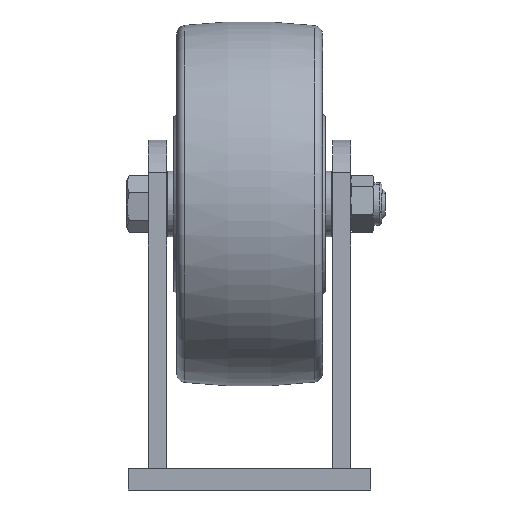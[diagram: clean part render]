
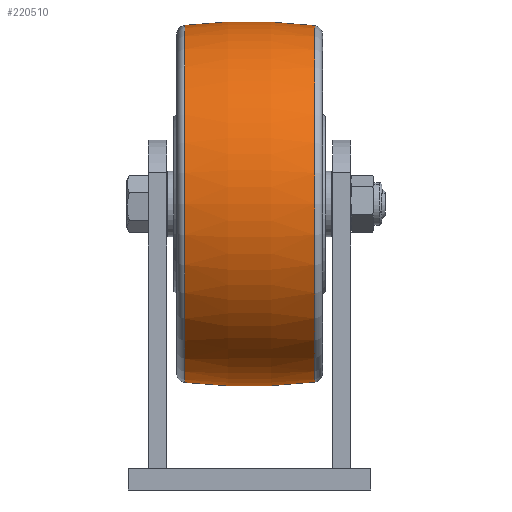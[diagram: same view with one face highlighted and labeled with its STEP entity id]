
A CAD part, left-side view. The second image highlights one B-rep face of the part: STEP entity #220510.
In plain terms, the highlighted toroidal (fillet/blend) face has major radius 200 mm and minor radius 300 mm.
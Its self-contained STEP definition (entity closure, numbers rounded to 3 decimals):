
#9700 = DIRECTION ( 'NONE',  ( 0., 1., 0. ) ) ;
#12964 = CIRCLE ( 'NONE', #210100, 97.789 ) ;
#16340 = EDGE_CURVE ( 'NONE', #149991, #26071, #56650, .T. ) ;
#16364 = CARTESIAN_POINT ( 'NONE',  ( 0., 0., -35.606 ) ) ;
#26071 = VERTEX_POINT ( 'NONE', #232201 ) ;
#30096 = VERTEX_POINT ( 'NONE', #141431 ) ;
#34602 = DIRECTION ( 'NONE',  ( 1., 0., 0. ) ) ;
#39773 = ORIENTED_EDGE ( 'NONE', *, *, #238417, .T. ) ;
#40379 = CARTESIAN_POINT ( 'NONE',  ( 0., 0., 35.581 ) ) ;
#55108 = DIRECTION ( 'NONE',  ( 0., 0., 1. ) ) ;
#56650 = CIRCLE ( 'NONE', #80827, 97.971 ) ;
#61658 = DIRECTION ( 'NONE',  ( 0., 0., 1. ) ) ;
#64802 = CIRCLE ( 'NONE', #199135, 300. ) ;
#66489 = TOROIDAL_SURFACE ( 'NONE', #195385, -200., 300. ) ;
#67630 = CARTESIAN_POINT ( 'NONE',  ( 0., 97.971, 35.581 ) ) ;
#76194 = AXIS2_PLACEMENT_3D ( 'NONE', #172804, #214965, #61658 ) ;
#80827 = AXIS2_PLACEMENT_3D ( 'NONE', #40379, #193698, #215744 ) ;
#112362 = ORIENTED_EDGE ( 'NONE', *, *, #272020, .T. ) ;
#141431 = CARTESIAN_POINT ( 'NONE',  ( 0., -97.789, -35.606 ) ) ;
#146037 = ORIENTED_EDGE ( 'NONE', *, *, #16340, .F. ) ;
#149991 = VERTEX_POINT ( 'NONE', #67630 ) ;
#155791 = CARTESIAN_POINT ( 'NONE',  ( 0., 97.789, -35.606 ) ) ;
#172804 = CARTESIAN_POINT ( 'NONE',  ( 0., 200., 0.75 ) ) ;
#187429 = ORIENTED_EDGE ( 'NONE', *, *, #224988, .F. ) ;
#187929 = CARTESIAN_POINT ( 'NONE',  ( 0., -200., 0.75 ) ) ;
#189220 = CARTESIAN_POINT ( 'NONE',  ( 0., 0., 0.75 ) ) ;
#193698 = DIRECTION ( 'NONE',  ( 0., 0., 1. ) ) ;
#195385 = AXIS2_PLACEMENT_3D ( 'NONE', #189220, #55108, #208427 ) ;
#198692 = VERTEX_POINT ( 'NONE', #155791 ) ;
#199135 = AXIS2_PLACEMENT_3D ( 'NONE', #187929, #34602, #9700 ) ;
#208130 = EDGE_LOOP ( 'NONE', ( #187429, #39773, #112362, #146037 ) ) ;
#208427 = DIRECTION ( 'NONE',  ( 0., -1., 0. ) ) ;
#210100 = AXIS2_PLACEMENT_3D ( 'NONE', #16364, #263488, #282718 ) ;
#214965 = DIRECTION ( 'NONE',  ( -1., 0., 0. ) ) ;
#215744 = DIRECTION ( 'NONE',  ( 0., -1., 0. ) ) ;
#220510 = ADVANCED_FACE ( 'NONE', ( #254874 ), #66489, .T. ) ;
#224988 = EDGE_CURVE ( 'NONE', #198692, #149991, #64802, .T. ) ;
#225254 = CIRCLE ( 'NONE', #76194, 300. ) ;
#232201 = CARTESIAN_POINT ( 'NONE',  ( 0., -97.971, 35.581 ) ) ;
#238417 = EDGE_CURVE ( 'NONE', #198692, #30096, #12964, .T. ) ;
#254874 = FACE_OUTER_BOUND ( 'NONE', #208130, .T. ) ;
#263488 = DIRECTION ( 'NONE',  ( 0., 0., 1. ) ) ;
#272020 = EDGE_CURVE ( 'NONE', #30096, #26071, #225254, .T. ) ;
#282718 = DIRECTION ( 'NONE',  ( 0., -1., 0. ) ) ;
